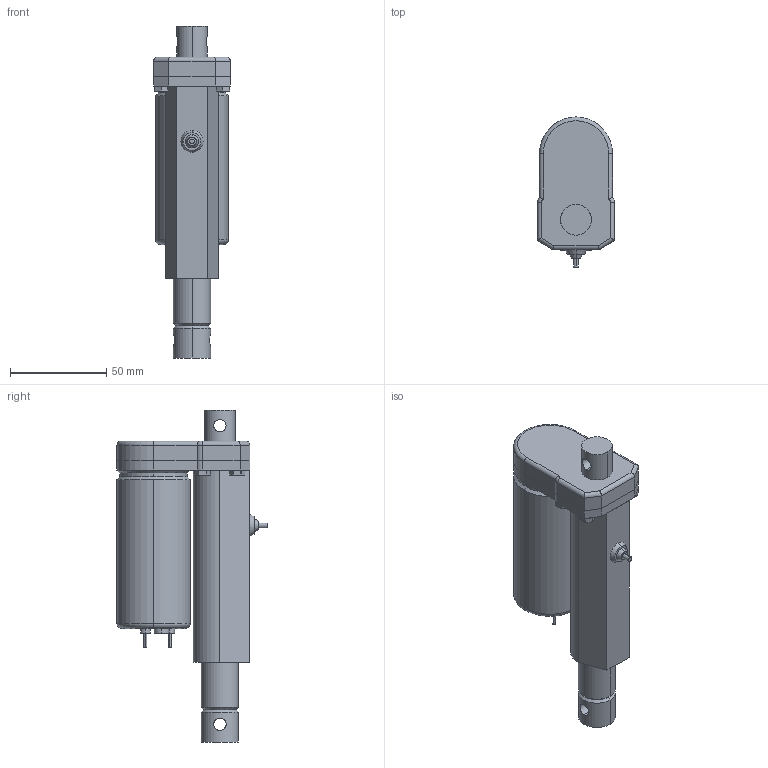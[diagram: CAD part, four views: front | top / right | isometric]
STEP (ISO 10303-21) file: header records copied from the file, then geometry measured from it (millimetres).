
FILE_DESCRIPTION (( 'STEP AP203' ), '1' );
FILE_NAME ('Electrak-LA1-S-01-Tollo.step', '2004-05-12T12:39:57', ( 'Jimmy Richardsson' ), ( 'Cevican AB' ), 'SwSTEP 2.0', 'SolidWorks 2002308', '' );
FILE_SCHEMA (( 'CONFIG_CONTROL_DESIGN' ));
Length unit declared in the file: millimetre
Products named in the file (7): Electrak-LA1-S-01-Tollo; Electrak-LA1-S-House-Tollo_Electrak-LA1-S-House-01-Tollo; Electrak-LA1-S-Rear-Tollo_Electrak-Cover-Tube-Tollo; Electrak-LA1-S-Motor-Tollo_Electrak-Cover-Tube-Tollo; Electrak-LA1-S-Tube-Tollo_Electrak-LA1-S-Tube-01-Tollo; Screw-M6S-M4_Screw-M6S-M4x12H; Electrak-LA1-S-Rod-Tollo_Electrak-LA1-S-Rod-01-Tollo
Assembly tree (9 placements, depth 3):
  Electrak-LA1-S-01-Tollo
    Electrak-LA1-S-Rod-Tollo_Electrak-LA1-S-Rod-01-Tollo
    Electrak-LA1-S-House-Tollo_Electrak-LA1-S-House-01-Tollo
      Screw-M6S-M4_Screw-M6S-M4x12H  x4
      Electrak-LA1-S-Tube-Tollo_Electrak-LA1-S-Tube-01-Tollo
      Electrak-LA1-S-Motor-Tollo_Electrak-Cover-Tube-Tollo
      Electrak-LA1-S-Rear-Tollo_Electrak-Cover-Tube-Tollo
Bounding box: 40 x 78 x 172.6 mm (x, y, z)
Volume: 187869.7 mm3; surface area: 47014.9 mm2
Topology: 8 solids, 8 shells, 239 faces, 545 edges, 342 vertices
Faces by surface type: cylinder 112, plane 78, cone 44, torus 5
Entity records: 5235 total; most frequent: CARTESIAN_POINT 1015, DIRECTION 780, ORIENTED_EDGE 658, EDGE_CURVE 329, AXIS2_PLACEMENT_3D 312, VERTEX_POINT 207, EDGE_LOOP 174, LINE 156
